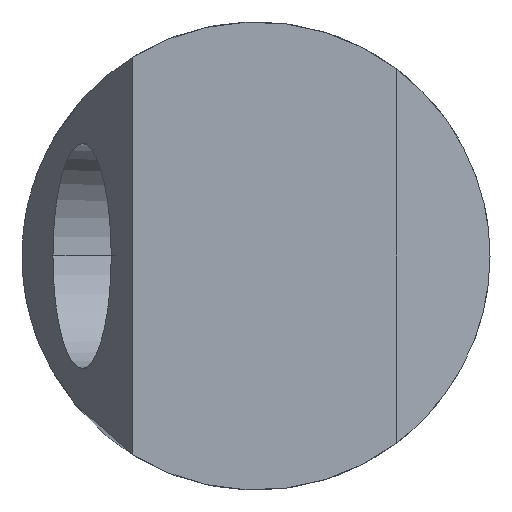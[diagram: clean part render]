
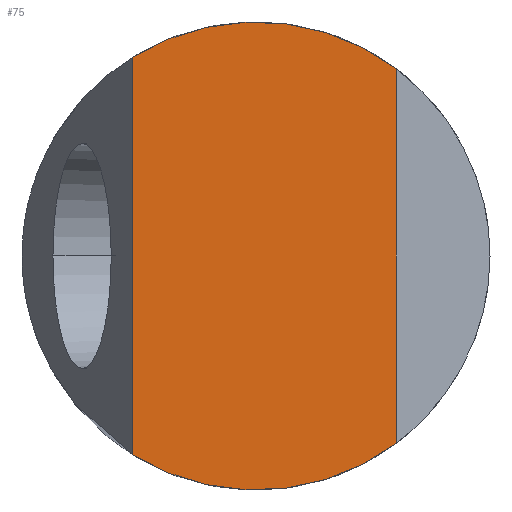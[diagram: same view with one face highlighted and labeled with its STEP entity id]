
A CAD part, left-side view. The second image highlights one B-rep face of the part: STEP entity #75.
In plain terms, the highlighted planar face has unit normal (-1, 0, 0).
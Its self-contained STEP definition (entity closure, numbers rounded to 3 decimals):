
#75=ADVANCED_FACE('',(#97),#96,.T.);
#96=PLANE('',#312);
#97=FACE_OUTER_BOUND('',#313,.T.);
#309=CARTESIAN_POINT('',(246.063,221.756,-18.163));
#310=DIRECTION('',(-1.,0.,0.));
#311=DIRECTION('',(0.,-1.,0.));
#312=AXIS2_PLACEMENT_3D('',#309,#310,#311);
#313=EDGE_LOOP('',(#477,#478,#479,#480));
#477=ORIENTED_EDGE('',*,*,#561,.F.);
#478=ORIENTED_EDGE('',*,*,#562,.F.);
#479=ORIENTED_EDGE('',*,*,#563,.T.);
#480=ORIENTED_EDGE('',*,*,#564,.F.);
#561=EDGE_CURVE('',#603,#604,#605,.T.);
#562=EDGE_CURVE('',#611,#603,#612,.T.);
#563=EDGE_CURVE('',#611,#618,#619,.T.);
#564=EDGE_CURVE('',#604,#618,#625,.T.);
#603=VERTEX_POINT('',#881);
#604=VERTEX_POINT('',#882);
#605=LINE('',#883,#884);
#611=VERTEX_POINT('',#886);
#612=CIRCLE('',#890,12.5);
#618=VERTEX_POINT('',#891);
#619=LINE('',#892,#893);
#625=CIRCLE('',#898,12.5);
#881=CARTESIAN_POINT('',(246.063,206.233,10.));
#882=CARTESIAN_POINT('',(246.063,206.233,-10.));
#883=CARTESIAN_POINT('',(246.063,206.233,10.));
#884=VECTOR('',#885,20.);
#885=DIRECTION('',(0.,0.,-1.));
#886=CARTESIAN_POINT('',(246.063,220.345,10.608));
#887=CARTESIAN_POINT('',(246.063,213.733,0.));
#888=DIRECTION('',(1.,0.,0.));
#889=DIRECTION('',(0.,-1.,0.));
#890=AXIS2_PLACEMENT_3D('',#887,#888,#889);
#891=CARTESIAN_POINT('',(246.063,220.345,-10.608));
#892=CARTESIAN_POINT('',(246.063,220.345,10.608));
#893=VECTOR('',#894,21.216);
#894=DIRECTION('',(0.,0.,-1.));
#895=CARTESIAN_POINT('',(246.063,213.733,0.));
#896=DIRECTION('',(1.,0.,0.));
#897=DIRECTION('',(0.,-1.,0.));
#898=AXIS2_PLACEMENT_3D('',#895,#896,#897);
